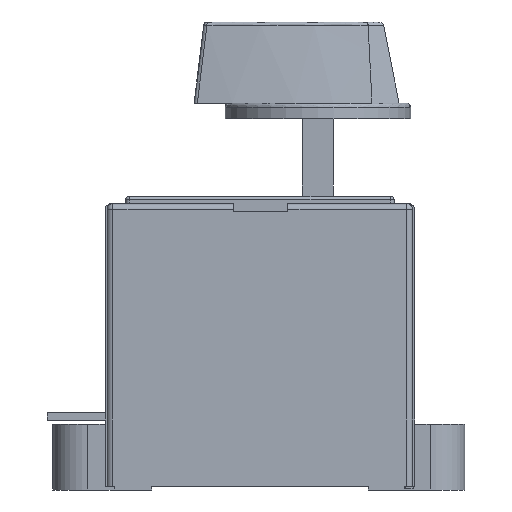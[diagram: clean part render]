
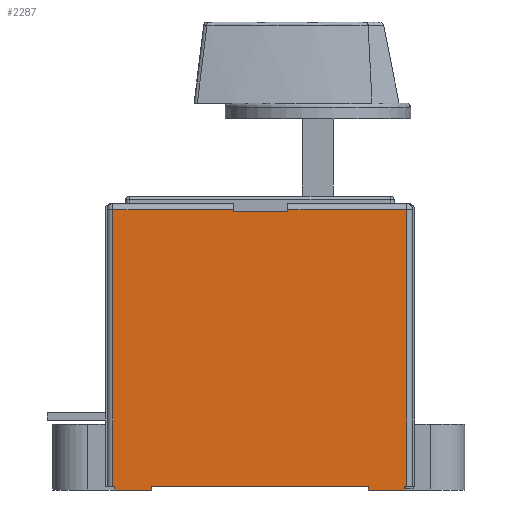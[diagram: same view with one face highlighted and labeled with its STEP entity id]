
A CAD part, left-side view. The second image highlights one B-rep face of the part: STEP entity #2287.
In plain terms, the highlighted planar face has unit normal (-1, 0, 0).
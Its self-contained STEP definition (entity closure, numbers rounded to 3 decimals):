
#269=PLANE('',#7643);
#715=LINE('',#10745,#1447);
#764=LINE('',#10862,#1496);
#766=LINE('',#10868,#1498);
#845=LINE('',#11217,#1577);
#862=LINE('',#11304,#1594);
#906=LINE('',#11418,#1638);
#911=LINE('',#11430,#1643);
#913=LINE('',#11433,#1645);
#919=LINE('',#11446,#1651);
#1088=LINE('',#11790,#1820);
#1094=LINE('',#11801,#1826);
#1095=LINE('',#11805,#1827);
#1096=LINE('',#11807,#1828);
#1097=LINE('',#11809,#1829);
#1098=LINE('',#11810,#1830);
#1099=LINE('',#11811,#1831);
#1447=VECTOR('',#8496,1.);
#1496=VECTOR('',#8581,1.);
#1498=VECTOR('',#8587,1.);
#1577=VECTOR('',#8904,1.);
#1594=VECTOR('',#9021,1.);
#1638=VECTOR('',#9139,1.);
#1643=VECTOR('',#9146,1.);
#1645=VECTOR('',#9150,1.);
#1651=VECTOR('',#9158,1.);
#1820=VECTOR('',#9457,1.);
#1826=VECTOR('',#9469,1.);
#1827=VECTOR('',#9474,1.);
#1828=VECTOR('',#9475,1.);
#1829=VECTOR('',#9476,1.);
#1830=VECTOR('',#9477,1.);
#1831=VECTOR('',#9478,1.);
#2287=ADVANCED_FACE('',(#2655),#269,.F.);
#2655=FACE_OUTER_BOUND('',#3086,.T.);
#3086=EDGE_LOOP('',(#4664,#4665,#4666,#4667,#4668,#4669,#4670,#4671,#4672,
#4673,#4674,#4675,#4676,#4677,#4678,#4679));
#4664=ORIENTED_EDGE('',*,*,#6719,.F.);
#4665=ORIENTED_EDGE('',*,*,#6462,.T.);
#4666=ORIENTED_EDGE('',*,*,#6264,.T.);
#4667=ORIENTED_EDGE('',*,*,#6208,.F.);
#4668=ORIENTED_EDGE('',*,*,#6267,.T.);
#4669=ORIENTED_EDGE('',*,*,#6419,.T.);
#4670=ORIENTED_EDGE('',*,*,#6721,.T.);
#4671=ORIENTED_EDGE('',*,*,#6722,.T.);
#4672=ORIENTED_EDGE('',*,*,#6723,.F.);
#4673=ORIENTED_EDGE('',*,*,#6518,.F.);
#4674=ORIENTED_EDGE('',*,*,#6523,.T.);
#4675=ORIENTED_EDGE('',*,*,#6724,.T.);
#4676=ORIENTED_EDGE('',*,*,#6531,.F.);
#4677=ORIENTED_EDGE('',*,*,#6525,.F.);
#4678=ORIENTED_EDGE('',*,*,#6713,.T.);
#4679=ORIENTED_EDGE('',*,*,#6725,.T.);
#5457=VERTEX_POINT('',#10744);
#5458=VERTEX_POINT('',#10746);
#5504=VERTEX_POINT('',#10863);
#5506=VERTEX_POINT('',#10869);
#5613=VERTEX_POINT('',#11212);
#5614=VERTEX_POINT('',#11216);
#5668=VERTEX_POINT('',#11419);
#5669=VERTEX_POINT('',#11420);
#5673=VERTEX_POINT('',#11429);
#5674=VERTEX_POINT('',#11434);
#5675=VERTEX_POINT('',#11435);
#5678=VERTEX_POINT('',#11443);
#5789=VERTEX_POINT('',#11789);
#5792=VERTEX_POINT('',#11802);
#5793=VERTEX_POINT('',#11806);
#5794=VERTEX_POINT('',#11808);
#6208=EDGE_CURVE('',#5457,#5458,#715,.T.);
#6264=EDGE_CURVE('',#5504,#5458,#764,.T.);
#6267=EDGE_CURVE('',#5457,#5506,#766,.T.);
#6419=EDGE_CURVE('',#5506,#5614,#845,.T.);
#6462=EDGE_CURVE('',#5613,#5504,#862,.T.);
#6518=EDGE_CURVE('',#5668,#5669,#906,.T.);
#6523=EDGE_CURVE('',#5668,#5673,#911,.T.);
#6525=EDGE_CURVE('',#5674,#5675,#913,.T.);
#6531=EDGE_CURVE('',#5675,#5678,#919,.T.);
#6713=EDGE_CURVE('',#5674,#5789,#1088,.T.);
#6719=EDGE_CURVE('',#5613,#5792,#1094,.T.);
#6721=EDGE_CURVE('',#5614,#5793,#1095,.T.);
#6722=EDGE_CURVE('',#5793,#5794,#1096,.T.);
#6723=EDGE_CURVE('',#5669,#5794,#1097,.T.);
#6724=EDGE_CURVE('',#5673,#5678,#1098,.T.);
#6725=EDGE_CURVE('',#5789,#5792,#1099,.T.);
#7643=AXIS2_PLACEMENT_3D('',#11812,#9479,#9480);
#8496=DIRECTION('',(0.,-1.,0.));
#8581=DIRECTION('',(0.,0.,-1.));
#8587=DIRECTION('',(0.,0.,1.));
#8904=DIRECTION('',(0.,1.,0.));
#9021=DIRECTION('',(0.,1.,0.));
#9139=DIRECTION('',(0.,1.,0.));
#9146=DIRECTION('',(0.,0.,1.));
#9150=DIRECTION('',(0.,1.,0.));
#9158=DIRECTION('',(0.,0.,1.));
#9457=DIRECTION('',(0.,0.,1.));
#9469=DIRECTION('',(0.,0.,-1.));
#9474=DIRECTION('',(0.,0.,-1.));
#9475=DIRECTION('',(0.,-1.,0.));
#9476=DIRECTION('',(0.,0.,1.));
#9477=DIRECTION('',(0.,-1.,0.));
#9478=DIRECTION('',(0.,-1.,0.));
#9479=DIRECTION('',(1.,0.,0.));
#9480=DIRECTION('',(0.,0.,-1.));
#10744=CARTESIAN_POINT('',(-69.,-17.985,67.));
#10745=CARTESIAN_POINT('',(-69.,12.765,67.));
#10746=CARTESIAN_POINT('',(-69.,-31.985,67.));
#10862=CARTESIAN_POINT('',(-69.,-31.985,69.1));
#10863=CARTESIAN_POINT('',(-69.,-31.985,67.6));
#10868=CARTESIAN_POINT('',(-69.,-17.985,69.1));
#10869=CARTESIAN_POINT('',(-69.,-17.985,67.6));
#11212=CARTESIAN_POINT('',(-69.,-62.735,67.6));
#11216=CARTESIAN_POINT('',(-69.,13.265,67.6));
#11217=CARTESIAN_POINT('',(-69.,13.265,67.6));
#11304=CARTESIAN_POINT('',(-69.,13.265,67.6));
#11418=CARTESIAN_POINT('',(-69.,3.265,-4.9));
#11419=CARTESIAN_POINT('',(-69.,3.265,-4.9));
#11420=CARTESIAN_POINT('',(-69.,12.765,-4.9));
#11429=CARTESIAN_POINT('',(-69.,3.265,-3.9));
#11430=CARTESIAN_POINT('',(-69.,3.265,-5.9));
#11433=CARTESIAN_POINT('',(-69.,-62.235,-4.9));
#11434=CARTESIAN_POINT('',(-69.,-62.235,-4.9));
#11435=CARTESIAN_POINT('',(-69.,-52.735,-4.9));
#11443=CARTESIAN_POINT('',(-69.,-52.735,-3.9));
#11446=CARTESIAN_POINT('',(-69.,-52.735,-5.9));
#11789=CARTESIAN_POINT('',(-69.,-62.235,-3.9));
#11790=CARTESIAN_POINT('',(-69.,-62.235,-5.9));
#11801=CARTESIAN_POINT('',(-69.,-62.735,69.1));
#11802=CARTESIAN_POINT('',(-69.,-62.735,-3.9));
#11805=CARTESIAN_POINT('',(-69.,13.265,69.1));
#11806=CARTESIAN_POINT('',(-69.,13.265,-3.9));
#11807=CARTESIAN_POINT('',(-69.,-62.235,-3.9));
#11808=CARTESIAN_POINT('',(-69.,12.765,-3.9));
#11809=CARTESIAN_POINT('',(-69.,12.765,-5.9));
#11810=CARTESIAN_POINT('',(-69.,-62.235,-3.9));
#11811=CARTESIAN_POINT('',(-69.,-62.235,-3.9));
#11812=CARTESIAN_POINT('',(-69.,-62.235,69.1));
